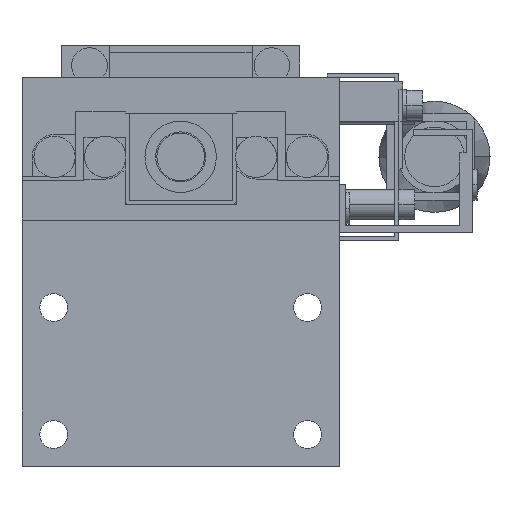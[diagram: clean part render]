
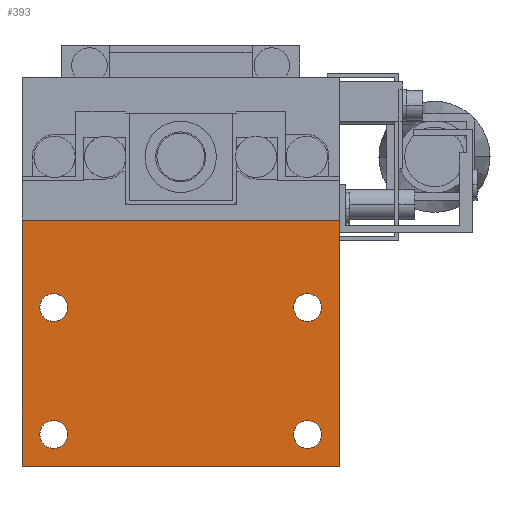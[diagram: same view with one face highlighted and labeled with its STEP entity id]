
A CAD part, front view. The second image highlights one B-rep face of the part: STEP entity #393.
In plain terms, the highlighted planar face has unit normal (0, -1, 0).
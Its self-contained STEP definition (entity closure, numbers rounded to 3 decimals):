
#393=ADVANCED_FACE('',(#1197,#1198,#1199,#1200,#1201),#1202,.F.);
#1197=FACE_BOUND('',#2844,.T.);
#1198=FACE_BOUND('',#2845,.T.);
#1199=FACE_BOUND('',#2846,.T.);
#1200=FACE_BOUND('',#2847,.T.);
#1201=FACE_OUTER_BOUND('',#2848,.T.);
#1202=PLANE('',#2849);
#2844=EDGE_LOOP('',(#4670,#4671));
#2845=EDGE_LOOP('',(#4672,#4673));
#2846=EDGE_LOOP('',(#4674,#4675));
#2847=EDGE_LOOP('',(#4676,#4677));
#2848=EDGE_LOOP('',(#4678,#4679,#4680,#4681));
#2849=AXIS2_PLACEMENT_3D('',#4682,#4683,#4684);
#4670=ORIENTED_EDGE('',*,*,#10638,.F.);
#4671=ORIENTED_EDGE('',*,*,#10556,.F.);
#4672=ORIENTED_EDGE('',*,*,#10639,.F.);
#4673=ORIENTED_EDGE('',*,*,#10552,.F.);
#4674=ORIENTED_EDGE('',*,*,#10637,.F.);
#4675=ORIENTED_EDGE('',*,*,#10560,.F.);
#4676=ORIENTED_EDGE('',*,*,#10631,.F.);
#4677=ORIENTED_EDGE('',*,*,#10564,.F.);
#4678=ORIENTED_EDGE('',*,*,#10640,.T.);
#4679=ORIENTED_EDGE('',*,*,#10623,.F.);
#4680=ORIENTED_EDGE('',*,*,#10608,.F.);
#4681=ORIENTED_EDGE('',*,*,#10625,.T.);
#4682=CARTESIAN_POINT('',(-20.0,0.0,-13.5));
#4683=DIRECTION('',(0.0,1.0,0.0));
#4684=DIRECTION('',(-1.0,0.0,0.0));
#10552=EDGE_CURVE('',#12455,#12451,#12457,.T.);
#10556=EDGE_CURVE('',#12463,#12459,#12465,.T.);
#10560=EDGE_CURVE('',#12471,#12467,#12473,.T.);
#10564=EDGE_CURVE('',#12479,#12475,#12481,.T.);
#10608=EDGE_CURVE('',#12557,#12559,#12560,.T.);
#10623=EDGE_CURVE('',#12559,#12578,#12582,.T.);
#10625=EDGE_CURVE('',#12557,#12583,#12585,.T.);
#10631=EDGE_CURVE('',#12475,#12479,#12592,.T.);
#10637=EDGE_CURVE('',#12467,#12471,#12600,.T.);
#10638=EDGE_CURVE('',#12459,#12463,#12601,.T.);
#10639=EDGE_CURVE('',#12451,#12455,#12602,.T.);
#10640=EDGE_CURVE('',#12583,#12578,#12603,.T.);
#12451=VERTEX_POINT('',#15570);
#12455=VERTEX_POINT('',#15575);
#12457=CIRCLE('',#15578,1.75);
#12459=VERTEX_POINT('',#15580);
#12463=VERTEX_POINT('',#15585);
#12465=CIRCLE('',#15588,1.75);
#12467=VERTEX_POINT('',#15590);
#12471=VERTEX_POINT('',#15595);
#12473=CIRCLE('',#15598,1.75);
#12475=VERTEX_POINT('',#15600);
#12479=VERTEX_POINT('',#15605);
#12481=CIRCLE('',#15608,1.75);
#12557=VERTEX_POINT('',#15709);
#12559=VERTEX_POINT('',#15712);
#12560=LINE('',#15713,#15714);
#12578=VERTEX_POINT('',#15740);
#12582=LINE('',#15746,#15747);
#12583=VERTEX_POINT('',#15748);
#12585=LINE('',#15751,#15752);
#12592=CIRCLE('',#15761,1.75);
#12600=CIRCLE('',#15772,1.75);
#12601=CIRCLE('',#15773,1.75);
#12602=CIRCLE('',#15774,1.75);
#12603=LINE('',#15775,#15776);
#15570=CARTESIAN_POINT('',(-16.0,0.0,-7.75));
#15575=CARTESIAN_POINT('',(-16.0,0.0,-11.25));
#15578=AXIS2_PLACEMENT_3D('',#20222,#20223,#20224);
#15580=CARTESIAN_POINT('',(16.0,0.0,8.25));
#15585=CARTESIAN_POINT('',(16.0,0.0,4.75));
#15588=AXIS2_PLACEMENT_3D('',#20230,#20231,#20232);
#15590=CARTESIAN_POINT('',(16.0,0.0,-7.75));
#15595=CARTESIAN_POINT('',(16.0,0.0,-11.25));
#15598=AXIS2_PLACEMENT_3D('',#20238,#20239,#20240);
#15600=CARTESIAN_POINT('',(-16.0,0.0,8.25));
#15605=CARTESIAN_POINT('',(-16.0,0.0,4.75));
#15608=AXIS2_PLACEMENT_3D('',#20246,#20247,#20248);
#15709=CARTESIAN_POINT('',(-20.0,0.0,-13.5));
#15712=CARTESIAN_POINT('',(-20.0,0.0,17.5));
#15713=CARTESIAN_POINT('',(-20.0,0.0,-13.5));
#15714=VECTOR('',#20326,1000.0);
#15740=CARTESIAN_POINT('',(20.0,0.0,17.5));
#15746=CARTESIAN_POINT('',(-20.0,0.0,17.5));
#15747=VECTOR('',#20349,1000.0);
#15748=CARTESIAN_POINT('',(20.0,0.0,-13.5));
#15751=CARTESIAN_POINT('',(-20.0,0.0,-13.5));
#15752=VECTOR('',#20351,1000.0);
#15761=AXIS2_PLACEMENT_3D('',#20363,#20364,#20365);
#15772=AXIS2_PLACEMENT_3D('',#20375,#20376,#20377);
#15773=AXIS2_PLACEMENT_3D('',#20378,#20379,#20380);
#15774=AXIS2_PLACEMENT_3D('',#20381,#20382,#20383);
#15775=CARTESIAN_POINT('',(20.0,0.0,-13.5));
#15776=VECTOR('',#20384,1000.0);
#20222=CARTESIAN_POINT('',(-16.0,0.0,-9.5));
#20223=DIRECTION('',(0.0,-1.0,0.0));
#20224=DIRECTION('',(0.0,0.0,1.0));
#20230=CARTESIAN_POINT('',(16.0,0.0,6.5));
#20231=DIRECTION('',(0.0,-1.0,0.0));
#20232=DIRECTION('',(0.0,0.0,1.0));
#20238=CARTESIAN_POINT('',(16.0,0.0,-9.5));
#20239=DIRECTION('',(0.0,-1.0,0.0));
#20240=DIRECTION('',(0.0,0.0,1.0));
#20246=CARTESIAN_POINT('',(-16.0,0.0,6.5));
#20247=DIRECTION('',(0.0,-1.0,0.0));
#20248=DIRECTION('',(0.0,0.0,1.0));
#20326=DIRECTION('',(0.0,0.0,1.0));
#20349=DIRECTION('',(1.0,0.0,0.0));
#20351=DIRECTION('',(1.0,0.0,0.0));
#20363=CARTESIAN_POINT('',(-16.0,0.0,6.5));
#20364=DIRECTION('',(0.0,-1.0,0.0));
#20365=DIRECTION('',(0.0,0.0,1.0));
#20375=CARTESIAN_POINT('',(16.0,0.0,-9.5));
#20376=DIRECTION('',(0.0,-1.0,0.0));
#20377=DIRECTION('',(0.0,0.0,1.0));
#20378=CARTESIAN_POINT('',(16.0,0.0,6.5));
#20379=DIRECTION('',(0.0,-1.0,0.0));
#20380=DIRECTION('',(0.0,0.0,1.0));
#20381=CARTESIAN_POINT('',(-16.0,0.0,-9.5));
#20382=DIRECTION('',(0.0,-1.0,0.0));
#20383=DIRECTION('',(0.0,0.0,1.0));
#20384=DIRECTION('',(0.0,0.0,1.0));
